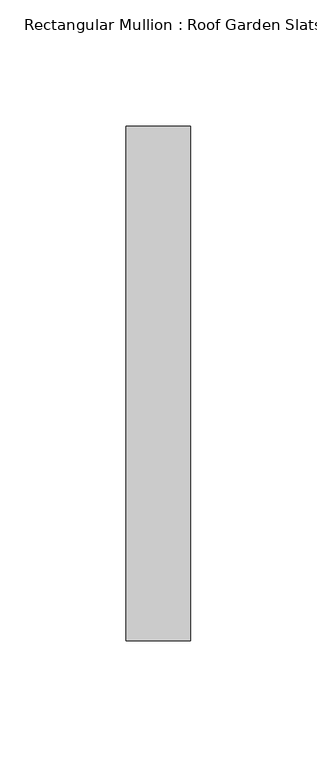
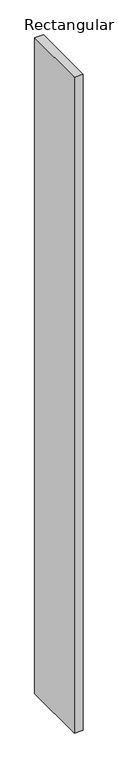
"""IFC4 building model written with IfcOpenShell, lengths in millimetres: member geometry, Rectangular Mullion : Roof Garden Slats."""

from ifc_helpers import new_model, si_unit, frame, origin, place, context, project, spatial, polyline, outline, extrude, source, transform, mapped, element, save


def rectangular_mullion_roof_garden_slats_bb4a42fc(model_context):
    return source(origin(), model_context, "Body", "SweptSolid", [
        extrude(outline(polyline([(0.0, 139.7), (0.0, -63.5), (-25.4, -63.5), (-25.4, 139.7), (0.0, 139.7)])), frame((0.0, 0.0, -2048.1664445), z_axis=(0.0, 0.0, 1.0), x_axis=(1.0, 0.0, 0.0)), (0.0, 0.0, 1.0), 2048.1664445),
    ])


if __name__ == "__main__":
    model = new_model("IFC4")
    model_context = context("Model", 3, world=origin())
    ifc_project = project(units=[si_unit("LENGTHUNIT", "METRE", prefix="MILLI")], contexts=[model_context])
    site = spatial("IfcSite", under=ifc_project)
    building = spatial("IfcBuilding", under=site)
    placement = place(None, origin())
    rectangular_mullion_roof_garden_slats_shape = rectangular_mullion_roof_garden_slats_bb4a42fc(model_context)
    element("IfcMember", 1, ObjectType="Rectangular Mullion : Roof Garden Slats", at=placement, inside=building, context=model_context, shape_type="MappedRepresentation", body=[
        mapped(rectangular_mullion_roof_garden_slats_shape, transform((0.0, 0.0, 0.0), x_axis=(1.0, 0.0, 0.0), y_axis=(0.0, 1.0, 0.0), z_axis=(0.0, 0.0, 1.0))),
    ])
    save(model, "model.ifc")
